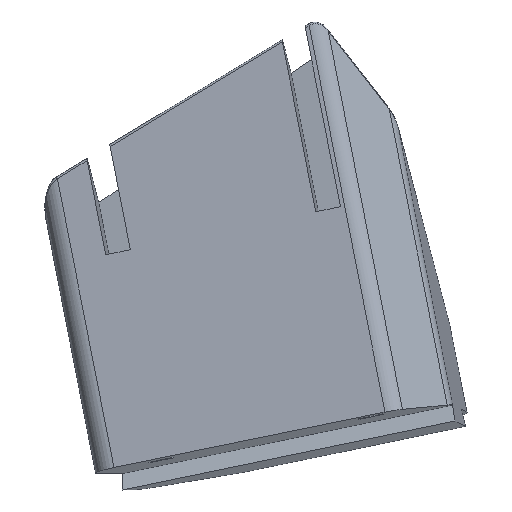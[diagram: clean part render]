
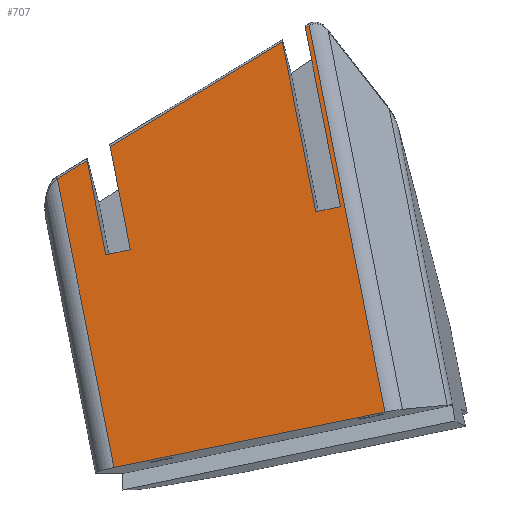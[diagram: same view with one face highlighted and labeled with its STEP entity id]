
A CAD part, top view. The second image highlights one B-rep face of the part: STEP entity #707.
In plain terms, the highlighted planar face has unit normal (-0.108, 0.068, 0.992).
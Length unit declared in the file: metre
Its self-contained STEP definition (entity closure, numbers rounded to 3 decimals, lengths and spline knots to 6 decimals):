
#67=ORIENTED_EDGE('',*,*,#281,.T.);
#68=ORIENTED_EDGE('',*,*,#282,.F.);
#69=ORIENTED_EDGE('',*,*,#283,.F.);
#70=ORIENTED_EDGE('',*,*,#284,.F.);
#71=ORIENTED_EDGE('',*,*,#285,.T.);
#72=ORIENTED_EDGE('',*,*,#286,.F.);
#73=ORIENTED_EDGE('',*,*,#287,.F.);
#74=ORIENTED_EDGE('',*,*,#288,.F.);
#75=ORIENTED_EDGE('',*,*,#289,.F.);
#76=ORIENTED_EDGE('',*,*,#290,.T.);
#77=ORIENTED_EDGE('',*,*,#291,.F.);
#78=ORIENTED_EDGE('',*,*,#292,.F.);
#281=EDGE_CURVE('',#388,#389,#456,.T.);
#282=EDGE_CURVE('',#390,#389,#457,.T.);
#283=EDGE_CURVE('',#391,#390,#458,.T.);
#284=EDGE_CURVE('',#392,#391,#459,.T.);
#285=EDGE_CURVE('',#392,#393,#460,.T.);
#286=EDGE_CURVE('',#394,#393,#461,.T.);
#287=EDGE_CURVE('',#395,#394,#462,.T.);
#288=EDGE_CURVE('',#396,#395,#463,.T.);
#289=EDGE_CURVE('',#397,#396,#464,.F.);
#290=EDGE_CURVE('',#397,#398,#465,.T.);
#291=EDGE_CURVE('',#399,#398,#466,.T.);
#292=EDGE_CURVE('',#388,#399,#467,.T.);
#388=VERTEX_POINT('',#1046);
#389=VERTEX_POINT('',#1047);
#390=VERTEX_POINT('',#1049);
#391=VERTEX_POINT('',#1051);
#392=VERTEX_POINT('',#1053);
#393=VERTEX_POINT('',#1055);
#394=VERTEX_POINT('',#1057);
#395=VERTEX_POINT('',#1059);
#396=VERTEX_POINT('',#1061);
#397=VERTEX_POINT('',#1063);
#398=VERTEX_POINT('',#1065);
#399=VERTEX_POINT('',#1067);
#456=LINE('',#1045,#533);
#457=LINE('',#1048,#534);
#458=LINE('',#1050,#535);
#459=LINE('',#1052,#536);
#460=LINE('',#1054,#537);
#461=LINE('',#1056,#538);
#462=LINE('',#1058,#539);
#463=LINE('',#1060,#540);
#464=LINE('',#1062,#541);
#465=LINE('',#1064,#542);
#466=LINE('',#1066,#543);
#467=LINE('',#1068,#544);
#533=VECTOR('',#835,1.);
#534=VECTOR('',#836,1.);
#535=VECTOR('',#837,1.);
#536=VECTOR('',#838,1.);
#537=VECTOR('',#839,1.);
#538=VECTOR('',#840,1.);
#539=VECTOR('',#841,1.);
#540=VECTOR('',#842,1.);
#541=VECTOR('',#843,1.);
#542=VECTOR('',#844,1.);
#543=VECTOR('',#845,1.);
#544=VECTOR('',#846,1.);
#603=EDGE_LOOP('',(#67,#68,#69,#70,#71,#72,#73,#74,#75,#76,#77,#78));
#644=FACE_BOUND('',#603,.T.);
#685=PLANE('',#759);
#707=ADVANCED_FACE('',(#644),#685,.T.);
#759=AXIS2_PLACEMENT_3D('',#1044,#833,#834);
#833=DIRECTION('',(-0.108,0.068,0.992));
#834=DIRECTION('',(0.283,-0.954,0.096));
#835=DIRECTION('',(0.192,-0.978,0.088));
#836=DIRECTION('',(0.976,0.2,0.092));
#837=DIRECTION('',(0.192,-0.978,0.088));
#838=DIRECTION('',(0.853,0.519,0.057));
#839=DIRECTION('',(0.192,-0.978,0.088));
#840=DIRECTION('',(0.976,0.2,0.092));
#841=DIRECTION('',(0.192,-0.978,0.088));
#842=DIRECTION('',(0.853,0.519,0.057));
#843=DIRECTION('',(0.192,-0.978,0.088));
#844=DIRECTION('',(0.976,0.2,0.092));
#845=DIRECTION('',(0.192,-0.978,0.088));
#846=DIRECTION('',(0.853,0.519,0.057));
#1044=CARTESIAN_POINT('',(-1.177935,-0.211461,0.040822));
#1045=CARTESIAN_POINT('',(-1.449334,1.188747,-0.084826));
#1046=CARTESIAN_POINT('',(-1.17182,-0.227123,0.042561));
#1047=CARTESIAN_POINT('',(-1.163512,-0.269514,0.046375));
#1048=CARTESIAN_POINT('',(-1.166439,-0.270112,0.046099));
#1049=CARTESIAN_POINT('',(-1.169367,-0.270711,0.045822));
#1050=CARTESIAN_POINT('',(-1.45519,1.18755,-0.08538));
#1051=CARTESIAN_POINT('',(-1.177262,-0.230432,0.042198));
#1052=CARTESIAN_POINT('',(-1.169424,-0.225666,0.042721));
#1053=CARTESIAN_POINT('',(-1.218074,-0.255249,0.039474));
#1054=CARTESIAN_POINT('',(-1.499106,1.178569,-0.089529));
#1055=CARTESIAN_POINT('',(-1.213283,-0.279692,0.041673));
#1056=CARTESIAN_POINT('',(-1.216211,-0.280291,0.041396));
#1057=CARTESIAN_POINT('',(-1.219138,-0.280889,0.04112));
#1058=CARTESIAN_POINT('',(-1.504961,1.177372,-0.090082));
#1059=CARTESIAN_POINT('',(-1.223515,-0.258558,0.039111));
#1060=CARTESIAN_POINT('',(-1.169424,-0.225666,0.042721));
#1061=CARTESIAN_POINT('',(-1.230579,-0.262853,0.038639));
#1062=CARTESIAN_POINT('',(-1.238234,-0.223792,0.035125));
#1063=CARTESIAN_POINT('',(-1.217159,-0.33132,0.044799));
#1064=CARTESIAN_POINT('',(-1.15686,-0.318989,0.050496));
#1065=CARTESIAN_POINT('',(-1.152945,-0.318188,0.050866));
#1066=CARTESIAN_POINT('',(-1.174021,-0.21066,0.041192));
#1067=CARTESIAN_POINT('',(-1.170903,-0.226565,0.042623));
#1068=CARTESIAN_POINT('',(-1.169424,-0.225666,0.042721));
